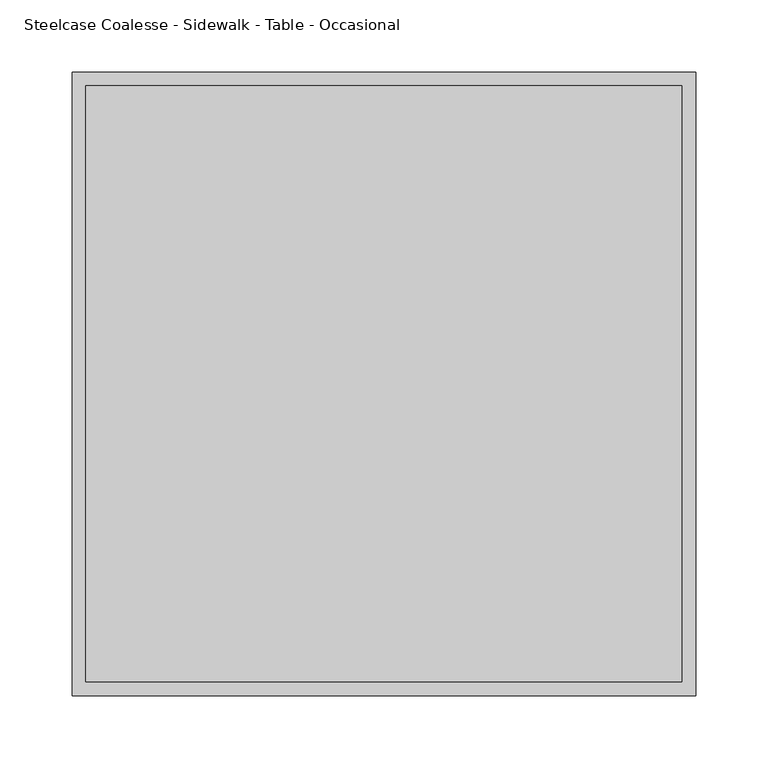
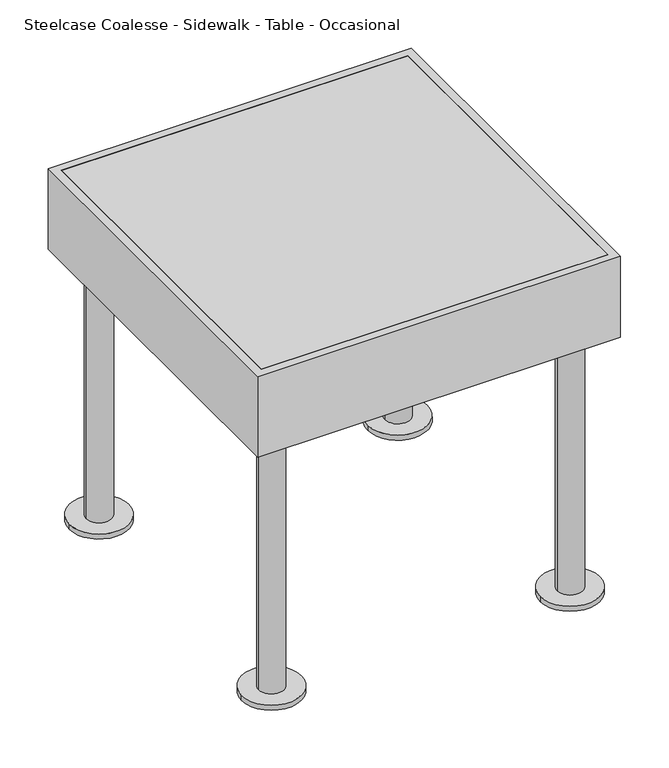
"""IFC4 building model written with IfcOpenShell, lengths in millimetres: furniture geometry, Steelcase Coalesse - Sidewalk - Table - Occasional : 17D x 17W x 17H."""

from ifc_helpers import new_model, si_unit, point, frame, frame_2d, origin, origin_with_axes, place, context, project, spatial, polyline, circle_curve, trimmed, segment, composite_curve, outline, extrude, source, transform, mapped, element, save


def steelcase_coalesse_sidewalk_table_occasional_db43c1d0(model_context):
    return source(origin(), model_context, "Body", "SweptSolid", [
        extrude(outline(composite_curve([segment(trimmed(circle_curve(frame_2d((393.7425788, -393.6585904)), 15.24), [point((408.9825788, -393.6585904))], [point((378.5025788, -393.6585904))], False, "CARTESIAN"), True, "CONTINUOUS"), segment(trimmed(circle_curve(frame_2d((393.7425788, -393.6585904)), 15.24), [point((378.5025788, -393.6585904))], [point((408.9825788, -393.6585904))], False, "CARTESIAN"), True, "CONTINUOUS")], self_intersect=False)), frame((0.0, 0.0, 6.35), z_axis=(0.0, 0.0, 1.0), x_axis=(1.0, 0.0, 0.0)), (0.0, 0.0, 1.0), 323.8500242),
        extrude(outline(composite_curve([segment(trimmed(circle_curve(frame_2d((393.7425788, -393.6585904)), 35.56), [point((429.3025788, -393.6585904))], [point((358.1825788, -393.6585904))], False, "CARTESIAN"), True, "CONTINUOUS"), segment(trimmed(circle_curve(frame_2d((393.7425788, -393.6585904)), 35.56), [point((358.1825788, -393.6585904))], [point((429.3025788, -393.6585904))], False, "CARTESIAN"), True, "CONTINUOUS")], self_intersect=False)), origin_with_axes(), (0.0, 0.0, 1.0), 6.35),
        extrude(outline(composite_curve([segment(trimmed(circle_curve(frame_2d((38.0574212, -393.6585904)), 15.24), [point((22.8174212, -393.6585904))], [point((53.2974212, -393.6585904))], False, "CARTESIAN"), True, "CONTINUOUS"), segment(trimmed(circle_curve(frame_2d((38.0574212, -393.6585904)), 15.24), [point((53.2974212, -393.6585904))], [point((22.8174212, -393.6585904))], False, "CARTESIAN"), True, "CONTINUOUS")], self_intersect=False)), frame((0.0, 0.0, 6.35), z_axis=(0.0, 0.0, 1.0), x_axis=(1.0, 0.0, 0.0)), (0.0, 0.0, 1.0), 323.8500242),
        extrude(outline(composite_curve([segment(trimmed(circle_curve(frame_2d((38.0574212, -393.6585904)), 35.56), [point((2.4974212, -393.6585904))], [point((73.6174212, -393.6585904))], False, "CARTESIAN"), True, "CONTINUOUS"), segment(trimmed(circle_curve(frame_2d((38.0574212, -393.6585904)), 35.56), [point((73.6174212, -393.6585904))], [point((2.4974212, -393.6585904))], False, "CARTESIAN"), True, "CONTINUOUS")], self_intersect=False)), origin_with_axes(), (0.0, 0.0, 1.0), 6.35),
        extrude(outline(composite_curve([segment(trimmed(circle_curve(frame_2d((393.7425788, -38.1414096)), 15.24), [point((408.9825788, -38.1414096))], [point((378.5025788, -38.1414096))], False, "CARTESIAN"), True, "CONTINUOUS"), segment(trimmed(circle_curve(frame_2d((393.7425788, -38.1414096)), 15.24), [point((378.5025788, -38.1414096))], [point((408.9825788, -38.1414096))], False, "CARTESIAN"), True, "CONTINUOUS")], self_intersect=False)), frame((0.0, 0.0, 6.35), z_axis=(0.0, 0.0, 1.0), x_axis=(1.0, 0.0, 0.0)), (0.0, 0.0, 1.0), 323.8500242),
        extrude(outline(composite_curve([segment(trimmed(circle_curve(frame_2d((393.7425788, -38.1414096)), 35.56), [point((429.3025788, -38.1414096))], [point((358.1825788, -38.1414096))], False, "CARTESIAN"), True, "CONTINUOUS"), segment(trimmed(circle_curve(frame_2d((393.7425788, -38.1414096)), 35.56), [point((358.1825788, -38.1414096))], [point((429.3025788, -38.1414096))], False, "CARTESIAN"), True, "CONTINUOUS")], self_intersect=False)), origin_with_axes(), (0.0, 0.0, 1.0), 6.35),
        extrude(outline(polyline([(431.8, 0.0), (431.8, -431.8), (0.0, -431.8), (0.0, 0.0), (431.8, 0.0)]), holes=[polyline([(422.2750154, -9.5249998), (9.5250003, -9.5249998), (9.5250003, -422.2750002), (422.2750154, -422.2750002), (422.2750154, -9.5249998)])]), frame((0.0, 0.0, 330.2000242), z_axis=(0.0, 0.0, 1.0), x_axis=(1.0, 0.0, 0.0)), (0.0, 0.0, 1.0), 101.5999758),
        extrude(outline(composite_curve([segment(trimmed(circle_curve(frame_2d((38.0574212, -38.1414096)), 15.24), [point((22.8174212, -38.1414096))], [point((53.2974212, -38.1414096))], False, "CARTESIAN"), True, "CONTINUOUS"), segment(trimmed(circle_curve(frame_2d((38.0574212, -38.1414096)), 15.24), [point((53.2974212, -38.1414096))], [point((22.8174212, -38.1414096))], False, "CARTESIAN"), True, "CONTINUOUS")], self_intersect=False)), frame((0.0, 0.0, 6.35), z_axis=(0.0, 0.0, 1.0), x_axis=(1.0, 0.0, 0.0)), (0.0, 0.0, 1.0), 323.8500242),
        extrude(outline(composite_curve([segment(trimmed(circle_curve(frame_2d((38.0574212, -38.1414096)), 35.56), [point((2.4974212, -38.1414096))], [point((73.6174212, -38.1414096))], False, "CARTESIAN"), True, "CONTINUOUS"), segment(trimmed(circle_curve(frame_2d((38.0574212, -38.1414096)), 35.56), [point((73.6174212, -38.1414096))], [point((2.4974212, -38.1414096))], False, "CARTESIAN"), True, "CONTINUOUS")], self_intersect=False)), origin_with_axes(), (0.0, 0.0, 1.0), 6.35),
        extrude(outline(polyline([(422.2750154, -9.5249998), (422.2750154, -422.2750002), (9.5250003, -422.2750002), (9.5250003, -9.5249998), (422.2750154, -9.5249998)])), frame((0.0, 0.0, 330.2000242), z_axis=(0.0, 0.0, 1.0), x_axis=(1.0, 0.0, 0.0)), (0.0, 0.0, 1.0), 101.5999758),
    ])


if __name__ == "__main__":
    model = new_model("IFC4")
    model_context = context("Model", 3, world=origin())
    ifc_project = project(units=[si_unit("LENGTHUNIT", "METRE", prefix="MILLI")], contexts=[model_context])
    site = spatial("IfcSite", under=ifc_project)
    building = spatial("IfcBuilding", under=site)
    placement = place(None, origin())
    steelcase_coalesse_sidewalk_table_occasional_shape = steelcase_coalesse_sidewalk_table_occasional_db43c1d0(model_context)
    element("IfcFurniture", 1, ObjectType="Steelcase Coalesse - Sidewalk - Table - Occasional : 17D x 17W x 17H", at=placement, inside=building, context=model_context, shape_type="MappedRepresentation", body=[
        mapped(steelcase_coalesse_sidewalk_table_occasional_shape, transform((0.0, 0.0, 0.0), x_axis=(1.0, 0.0, 0.0), y_axis=(0.0, 1.0, 0.0), z_axis=(0.0, 0.0, 1.0))),
    ])
    save(model, "model.ifc")
